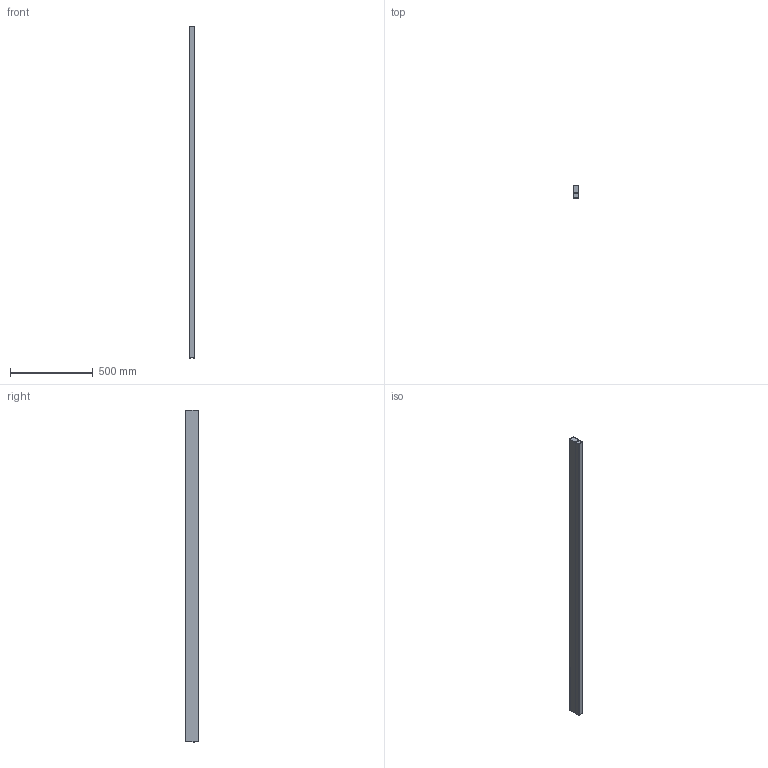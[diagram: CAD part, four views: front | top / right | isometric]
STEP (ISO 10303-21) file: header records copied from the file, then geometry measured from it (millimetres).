
FILE_DESCRIPTION(('STEP AP203'), '1');
FILE_NAME('Ìàòèê Óëüòðà 35Âò', '', ('UNSPECIFIED'), ('UNSPECIFIED'), 'ASCON STEP Converter 1.6', 'ASCON Math Kernel', '');
FILE_SCHEMA(('CONFIG_CONTROL_DESIGN'));
Length unit declared in the file: millimetre
Assembly tree (4 placements, depth 2):
  (unnamed)
    (unnamed)  x4
Bounding box: 35 x 80 x 2002.3 mm (x, y, z)
Volume: 808717 mm3; surface area: 1266026.1 mm2
Topology: 9 solids, 9 shells, 315 faces, 859 edges, 576 vertices
Faces by surface type: plane 158, cylinder 119, bspline 16, cone 12, torus 10
Full cylindrical faces by diameter (mm): 2.9 x4, 6.3 x4, 8 x1, 10 x2, 14 x2
Entity records: 9813 total; most frequent: CARTESIAN_POINT 1503, DIRECTION 1388, ORIENTED_EDGE 1310, EDGE_CURVE 655, AXIS2_PLACEMENT_3D 492, VERTEX_POINT 445, LINE 404, VECTOR 404
